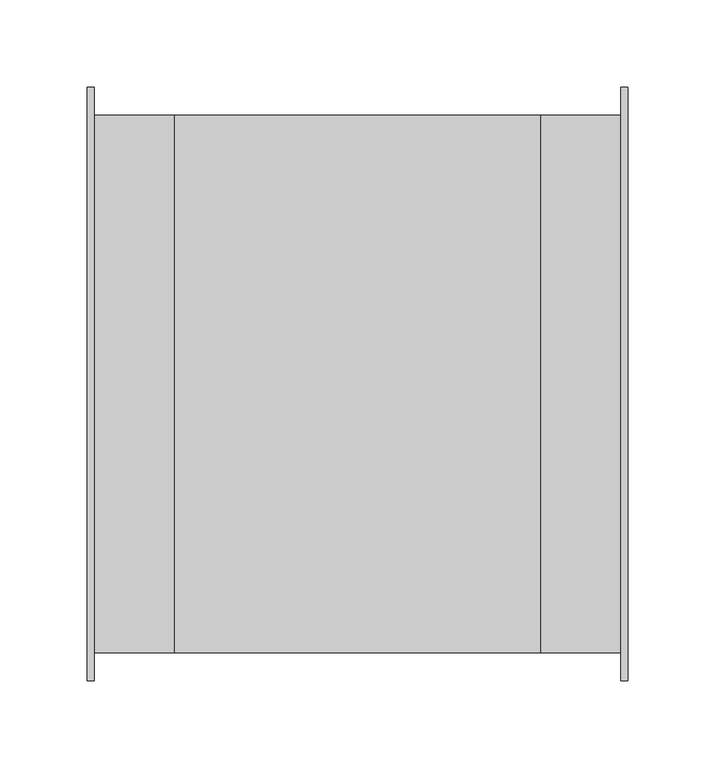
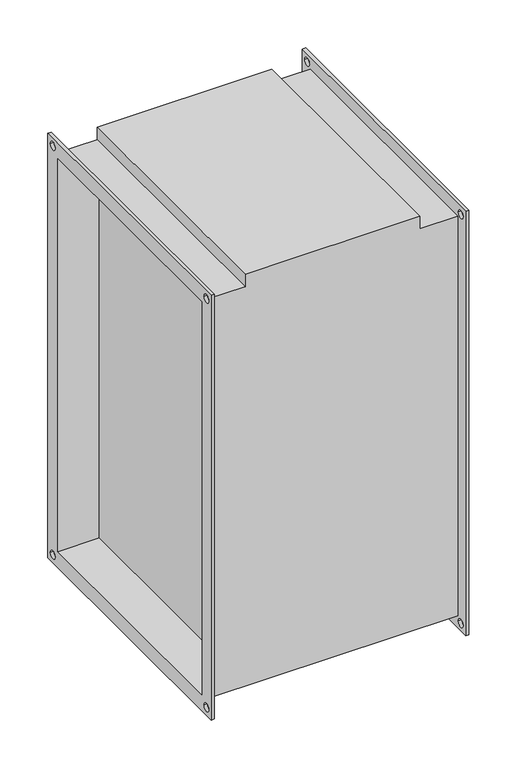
"""IFC4 building model written with IfcOpenShell, lengths in millimetres: proxy geometry, СВ_ВоздухонагревательЭлектрический_КанальныйПрямоугольный_200-1000_SPH-E : SPH-E-500x300/7,5."""

import ifcopenshell
import ifcopenshell.guid

model = None  # the IFC model being written
_history = None  # IfcOwnerHistory: only IFC2X3 demands one
_inside = {}  # id of a spatial element -> (the spatial element, [elements in it])
_under = {}  # id of a project, library or spatial element -> (it, [spatial elements below it])
_declared = {}  # id of a project -> (the project, [libraries it declares])
_typed = {}  # id of a type object -> (the type object, [elements of that type])
_made_of = {}  # id of a material, layer set ... -> (it, [elements and type objects made of it])


def new_model(schema):
    """Start an empty IFC model of exactly this schema.

    Asked for "IFC4X3", IfcOpenShell would pick the latest addendum, in which some entities
    have other attributes; the version numbers below select the first issue.
    IFC2X3 requires an IfcOwnerHistory on every rooted entity: one is made here for all.
    """
    global model, _history
    if schema == "IFC4X3":
        model = ifcopenshell.file(schema_version=(4, 3, 0, 0))
    else:
        model = ifcopenshell.file(schema=schema)
    _inside.clear()
    _under.clear()
    _declared.clear()
    _typed.clear()
    _made_of.clear()
    _history = None
    if model.schema == "IFC2X3":
        org = make("IfcOrganization", Name="unknown")
        user = make(
            "IfcPersonAndOrganization",
            ThePerson=make("IfcPerson", FamilyName="unknown"),
            TheOrganization=org,
        )
        app = make(
            "IfcApplication",
            ApplicationDeveloper=org,
            Version="unknown",
            ApplicationFullName="unknown",
            ApplicationIdentifier="unknown",
        )
        _history = make(
            "IfcOwnerHistory",
            OwningUser=user,
            OwningApplication=app,
            ChangeAction="ADDED",
            CreationDate=0,
        )
    return model


def make(cls, **values):
    """One entity of the class cls with the attributes given. An attribute that is None is left unset."""
    return model.create_entity(
        cls, **{name: value for name, value in values.items() if value is not None}
    )


def rooted(cls, **values):
    """An entity with a GlobalId (a new one), such as an element, a storey or a relation."""
    return make(cls, GlobalId=ifcopenshell.guid.new(), OwnerHistory=_history, **values)


def si_unit(unit_type, name, prefix=None):
    """IfcSIUnit, for example si_unit("LENGTHUNIT", "METRE", prefix="MILLI")."""
    return make("IfcSIUnit", UnitType=unit_type, Prefix=prefix, Name=name)


def assignment(units):
    """IfcUnitAssignment: the units of a project."""
    return None if units is None else make("IfcUnitAssignment", Units=units)


def point(xyz):
    """IfcCartesianPoint."""
    return None if xyz is None else make("IfcCartesianPoint", Coordinates=xyz)


def direction(xyz):
    """IfcDirection."""
    return None if xyz is None else make("IfcDirection", DirectionRatios=xyz)


def frame(location, z_axis=None, x_axis=None):
    """IfcAxis2Placement3D, a coordinate frame: its origin and axes. An axis left out is left unset."""
    return make(
        "IfcAxis2Placement3D",
        Location=point(location),
        Axis=direction(z_axis),
        RefDirection=direction(x_axis),
    )


def origin():
    """The frame at (0, 0, 0) with its axes left unset."""
    return frame((0.0, 0.0, 0.0))


def place(relative_to, where):
    """IfcLocalPlacement: puts the frame where relative to a parent placement (None: the world)."""
    return make(
        "IfcLocalPlacement", PlacementRelTo=relative_to, RelativePlacement=where
    )


def context(
    kind, dimensions, precision=None, world=None, true_north=None, identifier=None
):
    """IfcGeometricRepresentationContext, for example the 3D "Model" context."""
    return make(
        "IfcGeometricRepresentationContext",
        ContextIdentifier=identifier,
        ContextType=kind,
        CoordinateSpaceDimension=dimensions,
        Precision=precision,
        WorldCoordinateSystem=world,
        TrueNorth=true_north,
    )


def project(units=None, contexts=None):
    """IfcProject with its units and contexts."""
    return rooted(
        "IfcProject",
        Name="project",
        RepresentationContexts=contexts,
        UnitsInContext=assignment(units),
    )


def spatial(cls, under=None, at=None, **own):
    """A site, building, storey or space (cls), placed at a placement, below another one or the project."""
    s = rooted(cls, ObjectPlacement=at, **own)
    if under is not None:
        _under.setdefault(under.id(), (under, []))[1].append(s)
    return s


def polyline(points):
    """IfcPolyline through the points."""
    return make("IfcPolyline", Points=[point(p) for p in points])


def circle_curve(where, radius):
    """IfcCircle in the frame where."""
    return make("IfcCircle", Position=where, Radius=radius)


def shape(context_of_items, identifier, shape_type, items):
    """IfcShapeRepresentation: the items that make up one representation, for example the "Body"."""
    return make(
        "IfcShapeRepresentation",
        ContextOfItems=context_of_items,
        RepresentationIdentifier=identifier,
        RepresentationType=shape_type,
        Items=items,
    )


def source(mapping_origin, context_of_items, identifier, shape_type, items):
    """IfcRepresentationMap: a shape defined once, which mapped items show again and again."""
    return make(
        "IfcRepresentationMap",
        MappingOrigin=mapping_origin,
        MappedRepresentation=shape(context_of_items, identifier, shape_type, items),
    )


def transform(
    local_origin,
    x_axis=None,
    y_axis=None,
    z_axis=None,
    scale=None,
    scale2=None,
    scale3=None,
    uniform=True,
):
    """IfcCartesianTransformationOperator3D, or its non-uniform kind. x_axis, y_axis, z_axis: its Axis1, 2, 3."""
    if uniform:
        return make(
            "IfcCartesianTransformationOperator3D",
            Axis1=direction(x_axis),
            Axis2=direction(y_axis),
            LocalOrigin=point(local_origin),
            Scale=scale,
            Axis3=direction(z_axis),
        )
    return make(
        "IfcCartesianTransformationOperator3DnonUniform",
        Axis1=direction(x_axis),
        Axis2=direction(y_axis),
        LocalOrigin=point(local_origin),
        Scale=scale,
        Axis3=direction(z_axis),
        Scale2=scale2,
        Scale3=scale3,
    )


def mapped(mapping_source, mapping_target):
    """IfcMappedItem: shows the shape of a source again, moved by a transform."""
    return make(
        "IfcMappedItem", MappingSource=mapping_source, MappingTarget=mapping_target
    )


def made_of(thing, what):
    """Note that an element or type object is made of a material, layer set ...; save() writes the relation."""
    if what is not None:
        _made_of.setdefault(what.id(), (what, []))[1].append(thing)
    return thing


def element(
    cls,
    number,
    at=None,
    inside=None,
    cuts=None,
    type_object=None,
    material=None,
    context=None,
    identifier="Body",
    shape_type=None,
    held_by="IfcProductDefinitionShape",
    body=None,
    shapes=None,
    **own,
):
    """One element of the class cls, such as IfcWall. Its Tag is "e" and its number.

    at: its placement. inside: the storey or other place that contains it. cuts: it is an
    opening in that element (IfcRelVoidsElement). A single representation is given by context,
    identifier, shape_type and body (its items); several are given by shapes. held_by: the class
    of the entity that holds the representations. save() writes the other relations.
    """
    e = rooted(cls, Tag="e%d" % number, ObjectPlacement=at, **own)
    if body is not None:
        shapes = [shape(context, identifier, shape_type, body)]
    if shapes is not None:
        e.Representation = make(held_by, Representations=shapes)
    if inside is not None:
        _inside.setdefault(inside.id(), (inside, []))[1].append(e)
    if cuts is not None:
        rooted(
            "IfcRelVoidsElement", RelatingBuildingElement=cuts, RelatedOpeningElement=e
        )
    if type_object is not None:
        _typed.setdefault(type_object.id(), (type_object, []))[1].append(e)
    return made_of(e, material)


def aggregate(whole, parts):
    """IfcRelAggregates: a whole, such as a stair, and the parts it consists of."""
    return rooted("IfcRelAggregates", RelatingObject=whole, RelatedObjects=parts)


def save(model, path):
    """Write the relations noted so far, then the file.

    IfcRelAggregates (storeys below a building ...), IfcRelContainedInSpatialStructure (elements
    in a storey), IfcRelDefinesByType, IfcRelAssociatesMaterial and IfcRelDeclares: one each for
    every whole, place, type object, material and project.
    """
    for whole, parts in _under.values():
        aggregate(whole, parts)
    for where, things in _inside.values():
        rooted(
            "IfcRelContainedInSpatialStructure",
            RelatedElements=things,
            RelatingStructure=where,
        )
    for kind, things in _typed.values():
        rooted("IfcRelDefinesByType", RelatedObjects=things, RelatingType=kind)
    for what, things in _made_of.values():
        rooted("IfcRelAssociatesMaterial", RelatedObjects=things, RelatingMaterial=what)
    for by, libraries in _declared.values():
        rooted("IfcRelDeclares", RelatingContext=by, RelatedDefinitions=libraries)
    model.write(path)


def plane_surface(at):
    """IfcPlane: the flat surface through the origin of the frame at, square to its z axis."""
    return make("IfcPlane", Position=at)


def revolved_surface(curve, axis_point, axis_direction):
    """IfcSurfaceOfRevolution: the curve turned about the line through axis_point along axis_direction."""
    return make(
        "IfcSurfaceOfRevolution",
        SweptCurve=make("IfcArbitraryOpenProfileDef", ProfileType="CURVE", Curve=curve),
        AxisPosition=make("IfcAxis1Placement", Location=point(axis_point), Axis=direction(axis_direction)),
    )


def advanced_brep(points, edges, surfaces, faces):
    """IfcAdvancedBrep: a solid bounded by faces that lie on surfaces and meet in shared edges.

    An edge is (start, end): straight between two places in points (the first is 0);
    or (start, end, curve); or (start, end, curve, False) where it runs against its curve.
    A face is (place in surfaces, loops), or (place, loops, False) where it looks against
    its surface's normal. A loop lists edges by number (the first is 1), with a minus sign
    where the edge is run from its end to its start. The first loop is the outer one.
    """
    corners = [point(p) for p in points]
    vertices = [make("IfcVertexPoint", VertexGeometry=c) for c in corners]
    made = []
    for start, end, *more in edges:
        made.append(
            make(
                "IfcEdgeCurve",
                EdgeStart=vertices[start],
                EdgeEnd=vertices[end],
                EdgeGeometry=more[0] if more else make("IfcPolyline", Points=[corners[start], corners[end]]),
                SameSense=more[1] if len(more) > 1 else True,
            )
        )
    hull = []
    for where, loops, *sense in faces:
        bounds = []
        for j, loop in enumerate(loops):
            ring = [make("IfcOrientedEdge", EdgeElement=made[abs(k) - 1], Orientation=k > 0) for k in loop]
            bounds.append(
                make(
                    "IfcFaceOuterBound" if j == 0 else "IfcFaceBound",
                    Bound=make("IfcEdgeLoop", EdgeList=ring),
                    Orientation=True,
                )
            )
        hull.append(make("IfcAdvancedFace", Bounds=bounds, FaceSurface=surfaces[where], SameSense=sense[0] if sense else True))
    return make("IfcAdvancedBrep", Outer=make("IfcClosedShell", CfsFaces=hull))


def mechanical_equipment_28f21b0b(model_context):
    return source(origin(), model_context, "Body", "AdvancedBrep", [
        advanced_brep(
        [(-105.0, -154.0, 254.0), (-151.0, -154.0, 254.0), (-151.0, -154.0, -254.0), (151.0, -154.0, -254.0), (151.0, -154.0, 254.0), (105.0, -154.0, 254.0), (105.0, -154.0, 270.0), (-105.0, -154.0, 270.0), (-151.0, 154.0, -254.0), (151.0, 154.0, -254.0), (-151.0, 154.0, 254.0), (-105.0, 154.0, 254.0), (-105.0, 154.0, 270.0), (105.0, 154.0, 270.0), (105.0, 154.0, 254.0), (151.0, 154.0, 254.0), (105.0, 150.0, -250.0), (105.0, 150.0, 250.0), (105.0, -150.0, 250.0), (105.0, -150.0, -250.0), (-105.0, -150.0, 250.0), (-105.0, 150.0, 250.0), (-105.0, 150.0, -250.0), (-105.0, -150.0, -250.0), (-155.0, -170.0, 270.0), (-155.0, 170.0, 270.0), (-155.0, 170.0, -270.0), (-155.0, -170.0, -270.0), (-155.0, -150.0, 250.0), (-155.0, -150.0, -250.0), (-155.0, 150.0, -250.0), (-155.0, 150.0, 250.0), (-155.0, 155.0, 260.0), (-155.0, 165.0, 260.0), (-155.0, -165.0, 260.0), (-155.0, -155.0, 260.0), (-155.0, -165.0, -260.0), (-155.0, -155.0, -260.0), (-155.0, 155.0, -260.0), (-155.0, 165.0, -260.0), (-151.0, -170.0, 270.0), (-151.0, -170.0, -270.0), (-151.0, 170.0, -270.0), (-151.0, 170.0, 270.0), (-151.0, 165.0, 260.0), (-151.0, 155.0, 260.0), (-151.0, -155.0, 260.0), (-151.0, -165.0, 260.0), (-151.0, -155.0, -260.0), (-151.0, -165.0, -260.0), (-151.0, 165.0, -260.0), (-151.0, 155.0, -260.0), (151.0, 170.0, 270.0), (151.0, 170.0, -270.0), (151.0, -170.0, -270.0), (151.0, -170.0, 270.0), (151.0, 155.0, 260.0), (151.0, 165.0, 260.0), (151.0, -165.0, 260.0), (151.0, -155.0, 260.0), (151.0, -165.0, -260.0), (151.0, -155.0, -260.0), (151.0, 155.0, -260.0), (151.0, 165.0, -260.0), (155.0, 170.0, 270.0), (155.0, -170.0, 270.0), (155.0, -170.0, -270.0), (155.0, 170.0, -270.0), (155.0, 150.0, 250.0), (155.0, 150.0, -250.0), (155.0, -150.0, -250.0), (155.0, -150.0, 250.0), (155.0, 165.0, 260.0), (155.0, 155.0, 260.0), (155.0, -155.0, 260.0), (155.0, -165.0, 260.0), (155.0, -155.0, -260.0), (155.0, -165.0, -260.0), (155.0, 165.0, -260.0), (155.0, 155.0, -260.0)],
        [
            (0, 1),
            (1, 2),
            (2, 3),
            (3, 4),
            (4, 5),
            (5, 6),
            (6, 7),
            (7, 0),
            (2, 8),
            (8, 9),
            (9, 3),
            (10, 11),
            (11, 12),
            (12, 13),
            (13, 14),
            (14, 15),
            (15, 9),
            (8, 10),
            (0, 11),
            (10, 1),
            (13, 6),
            (5, 14),
            (16, 17),
            (17, 18),
            (18, 19),
            (19, 16),
            (7, 12),
            (20, 21),
            (21, 22),
            (22, 23),
            (23, 20),
            (4, 15),
            (24, 25),
            (25, 26),
            (26, 27),
            (27, 24),
            (28, 29),
            (29, 30),
            (30, 31),
            (31, 28),
            (32, 33, circle_curve(frame((-155.0, 160.0, 260.0), z_axis=(1.0, 0.0, 0.0), x_axis=(0.0, 1.0, 0.0)), 5.0)),
            (33, 32, circle_curve(frame((-155.0, 160.0, 260.0), z_axis=(1.0, 0.0, 0.0), x_axis=(0.0, 1.0, 0.0)), 5.0)),
            (34, 35, circle_curve(frame((-155.0, -160.0, 260.0), z_axis=(1.0, 0.0, 0.0), x_axis=(0.0, 1.0, 0.0)), 5.0)),
            (35, 34, circle_curve(frame((-155.0, -160.0, 260.0), z_axis=(1.0, 0.0, 0.0), x_axis=(0.0, 1.0, 0.0)), 5.0)),
            (36, 37, circle_curve(frame((-155.0, -160.0, -260.0), z_axis=(1.0, 0.0, 0.0), x_axis=(0.0, 1.0, 0.0)), 5.0)),
            (37, 36, circle_curve(frame((-155.0, -160.0, -260.0), z_axis=(1.0, 0.0, 0.0), x_axis=(0.0, 1.0, 0.0)), 5.0)),
            (38, 39, circle_curve(frame((-155.0, 160.0, -260.0), z_axis=(1.0, 0.0, 0.0), x_axis=(0.0, 1.0, 0.0)), 5.0)),
            (39, 38, circle_curve(frame((-155.0, 160.0, -260.0), z_axis=(1.0, 0.0, 0.0), x_axis=(0.0, 1.0, 0.0)), 5.0)),
            (40, 41),
            (41, 42),
            (42, 43),
            (43, 40),
            (44, 45, circle_curve(frame((-151.0, 160.0, 260.0), z_axis=(-1.0, 0.0, 0.0), x_axis=(0.0, 1.0, 0.0)), 5.0)),
            (45, 44, circle_curve(frame((-151.0, 160.0, 260.0), z_axis=(-1.0, 0.0, 0.0), x_axis=(0.0, 1.0, 0.0)), 5.0)),
            (46, 47, circle_curve(frame((-151.0, -160.0, 260.0), z_axis=(-1.0, 0.0, 0.0), x_axis=(0.0, 1.0, 0.0)), 5.0)),
            (47, 46, circle_curve(frame((-151.0, -160.0, 260.0), z_axis=(-1.0, 0.0, 0.0), x_axis=(0.0, 1.0, 0.0)), 5.0)),
            (48, 49, circle_curve(frame((-151.0, -160.0, -260.0), z_axis=(-1.0, 0.0, 0.0), x_axis=(0.0, 1.0, 0.0)), 5.0)),
            (49, 48, circle_curve(frame((-151.0, -160.0, -260.0), z_axis=(-1.0, 0.0, 0.0), x_axis=(0.0, 1.0, 0.0)), 5.0)),
            (50, 51, circle_curve(frame((-151.0, 160.0, -260.0), z_axis=(-1.0, 0.0, 0.0), x_axis=(0.0, 1.0, 0.0)), 5.0)),
            (51, 50, circle_curve(frame((-151.0, 160.0, -260.0), z_axis=(-1.0, 0.0, 0.0), x_axis=(0.0, 1.0, 0.0)), 5.0)),
            (27, 41),
            (40, 24),
            (26, 42),
            (25, 43),
            (52, 53),
            (53, 54),
            (54, 55),
            (55, 52),
            (56, 57, circle_curve(frame((151.0, 160.0, 260.0), z_axis=(1.0, 0.0, 0.0), x_axis=(0.0, 1.0, 0.0)), 5.0)),
            (57, 56, circle_curve(frame((151.0, 160.0, 260.0), z_axis=(1.0, 0.0, 0.0), x_axis=(0.0, 1.0, 0.0)), 5.0)),
            (58, 59, circle_curve(frame((151.0, -160.0, 260.0), z_axis=(1.0, 0.0, 0.0), x_axis=(0.0, 1.0, 0.0)), 5.0)),
            (59, 58, circle_curve(frame((151.0, -160.0, 260.0), z_axis=(1.0, 0.0, 0.0), x_axis=(0.0, 1.0, 0.0)), 5.0)),
            (60, 61, circle_curve(frame((151.0, -160.0, -260.0), z_axis=(1.0, 0.0, 0.0), x_axis=(0.0, 1.0, 0.0)), 5.0)),
            (61, 60, circle_curve(frame((151.0, -160.0, -260.0), z_axis=(1.0, 0.0, 0.0), x_axis=(0.0, 1.0, 0.0)), 5.0)),
            (62, 63, circle_curve(frame((151.0, 160.0, -260.0), z_axis=(1.0, 0.0, 0.0), x_axis=(0.0, 1.0, 0.0)), 5.0)),
            (63, 62, circle_curve(frame((151.0, 160.0, -260.0), z_axis=(1.0, 0.0, 0.0), x_axis=(0.0, 1.0, 0.0)), 5.0)),
            (64, 65),
            (65, 66),
            (66, 67),
            (67, 64),
            (68, 69),
            (69, 70),
            (70, 71),
            (71, 68),
            (72, 73, circle_curve(frame((155.0, 160.0, 260.0), z_axis=(-1.0, 0.0, 0.0), x_axis=(0.0, 1.0, 0.0)), 5.0)),
            (73, 72, circle_curve(frame((155.0, 160.0, 260.0), z_axis=(-1.0, 0.0, 0.0), x_axis=(0.0, 1.0, 0.0)), 5.0)),
            (74, 75, circle_curve(frame((155.0, -160.0, 260.0), z_axis=(-1.0, 0.0, 0.0), x_axis=(0.0, 1.0, 0.0)), 5.0)),
            (75, 74, circle_curve(frame((155.0, -160.0, 260.0), z_axis=(-1.0, 0.0, 0.0), x_axis=(0.0, 1.0, 0.0)), 5.0)),
            (76, 77, circle_curve(frame((155.0, -160.0, -260.0), z_axis=(-1.0, 0.0, 0.0), x_axis=(0.0, 1.0, 0.0)), 5.0)),
            (77, 76, circle_curve(frame((155.0, -160.0, -260.0), z_axis=(-1.0, 0.0, 0.0), x_axis=(0.0, 1.0, 0.0)), 5.0)),
            (78, 79, circle_curve(frame((155.0, 160.0, -260.0), z_axis=(-1.0, 0.0, 0.0), x_axis=(0.0, 1.0, 0.0)), 5.0)),
            (79, 78, circle_curve(frame((155.0, 160.0, -260.0), z_axis=(-1.0, 0.0, 0.0), x_axis=(0.0, 1.0, 0.0)), 5.0)),
            (55, 65),
            (64, 52),
            (54, 66),
            (53, 67),
            (31, 21),
            (20, 28),
            (30, 22),
            (29, 23),
            (68, 17),
            (16, 69),
            (19, 70),
            (18, 71),
            (32, 45),
            (44, 33),
            (56, 73),
            (72, 57),
            (34, 47),
            (46, 35),
            (58, 75),
            (74, 59),
            (36, 49),
            (48, 37),
            (60, 77),
            (76, 61),
            (38, 51),
            (50, 39),
            (62, 79),
            (78, 63),
        ],
        [
            plane_surface(frame((-105.0, -154.0, 254.0), z_axis=(0.0, -1.0, 0.0), x_axis=(-1.0, 0.0, 0.0))),
            plane_surface(frame((-105.0, -154.0, -254.0), z_axis=(0.0, 0.0, -1.0), x_axis=(-1.0, 0.0, 0.0))),
            plane_surface(frame((-105.0, 154.0, -254.0), z_axis=(0.0, 1.0, 0.0), x_axis=(-1.0, 0.0, 0.0))),
            plane_surface(frame((-105.0, 154.0, 254.0), z_axis=(0.0, 0.0, 1.0), x_axis=(-1.0, 0.0, 0.0))),
            plane_surface(frame((105.0, -154.0, 270.0), z_axis=(1.0, 0.0, 0.0), x_axis=(0.0, 0.0, -1.0))),
            plane_surface(frame((-105.0, -154.0, 270.0), z_axis=(-1.0, 0.0, 0.0), x_axis=(0.0, 0.0, 1.0))),
            plane_surface(frame((105.0, 154.0, 270.0), z_axis=(0.0, 0.0, 1.0), x_axis=(-1.0, 0.0, 0.0))),
            plane_surface(frame((151.0, 154.0, 254.0), z_axis=(0.0, 0.0, 1.0), x_axis=(-1.0, 0.0, 0.0))),
            plane_surface(frame((-155.0, -170.0, 270.0), z_axis=(-1.0, 0.0, 0.0), x_axis=(0.0, 0.0, 1.0))),
            plane_surface(frame((-151.0, -170.0, 270.0), z_axis=(1.0, 0.0, 0.0), x_axis=(0.0, 0.0, -1.0))),
            plane_surface(frame((-151.0, -170.0, 270.0), z_axis=(0.0, -1.0, 0.0), x_axis=(-1.0, 0.0, 0.0))),
            plane_surface(frame((-151.0, -170.0, -270.0), z_axis=(0.0, 0.0, -1.0), x_axis=(-1.0, 0.0, 0.0))),
            plane_surface(frame((-151.0, 170.0, -270.0), z_axis=(0.0, 1.0, 0.0), x_axis=(-1.0, 0.0, 0.0))),
            plane_surface(frame((-151.0, 170.0, 270.0), z_axis=(0.0, 0.0, 1.0), x_axis=(-1.0, 0.0, 0.0))),
            plane_surface(frame((151.0, 150.0, -250.0), z_axis=(-1.0, 0.0, 0.0), x_axis=(0.0, 0.0, 1.0))),
            plane_surface(frame((155.0, 150.0, -250.0), z_axis=(1.0, 0.0, 0.0), x_axis=(0.0, 0.0, -1.0))),
            plane_surface(frame((155.0, 170.0, 270.0), z_axis=(0.0, 0.0, 1.0), x_axis=(-1.0, 0.0, 0.0))),
            plane_surface(frame((155.0, -170.0, 270.0), z_axis=(0.0, -1.0, 0.0), x_axis=(-1.0, 0.0, 0.0))),
            plane_surface(frame((155.0, -170.0, -270.0), z_axis=(0.0, 0.0, -1.0), x_axis=(-1.0, 0.0, 0.0))),
            plane_surface(frame((155.0, 170.0, -270.0), z_axis=(0.0, 1.0, 0.0), x_axis=(-1.0, 0.0, 0.0))),
            plane_surface(frame((-151.0, -150.0, 250.0), z_axis=(0.0, 0.0, -1.0), x_axis=(-1.0, 0.0, 0.0))),
            plane_surface(frame((-151.0, 150.0, 250.0), z_axis=(0.0, -1.0, 0.0), x_axis=(-1.0, 0.0, 0.0))),
            plane_surface(frame((-151.0, 150.0, -250.0), z_axis=(0.0, 0.0, 1.0), x_axis=(-1.0, 0.0, 0.0))),
            plane_surface(frame((-151.0, -150.0, -250.0), z_axis=(0.0, 1.0, 0.0), x_axis=(-1.0, 0.0, 0.0))),
            plane_surface(frame((155.0, 150.0, 250.0), z_axis=(0.0, -1.0, 0.0), x_axis=(-1.0, 0.0, 0.0))),
            plane_surface(frame((155.0, 150.0, -250.0), z_axis=(0.0, 0.0, 1.0), x_axis=(-1.0, 0.0, 0.0))),
            plane_surface(frame((155.0, -150.0, -250.0), z_axis=(0.0, 1.0, 0.0), x_axis=(-1.0, 0.0, 0.0))),
            plane_surface(frame((155.0, -150.0, 250.0), z_axis=(0.0, 0.0, -1.0), x_axis=(-1.0, 0.0, 0.0))),
            revolved_surface(polyline([(-151.0, 165.0, 260.0), (-155.0, 165.0, 260.0)]), (-155.0, 160.0, 260.0), (1.0, 0.0, 0.0)),
            revolved_surface(polyline([(155.0, 165.0, 260.0), (151.0, 165.0, 260.0)]), (-155.0, 160.0, 260.0), (1.0, 0.0, 0.0)),
            revolved_surface(polyline([(-151.0, -155.0, 260.0), (-155.0, -155.0, 260.0)]), (0.0, -160.0, 260.0), (1.0, 0.0, 0.0)),
            revolved_surface(polyline([(155.0, -155.0, 260.0), (151.0, -155.0, 260.0)]), (0.0, -160.0, 260.0), (1.0, 0.0, 0.0)),
            revolved_surface(polyline([(-151.0, -155.0, -260.0), (-155.0, -155.0, -260.0)]), (0.0, -160.0, -260.0), (1.0, 0.0, 0.0)),
            revolved_surface(polyline([(155.0, -155.0, -260.0), (151.0, -155.0, -260.0)]), (0.0, -160.0, -260.0), (1.0, 0.0, 0.0)),
            revolved_surface(polyline([(-151.0, 165.0, -260.0), (-155.0, 165.0, -260.0)]), (0.0, 160.0, -260.0), (1.0, 0.0, 0.0)),
            revolved_surface(polyline([(155.0, 165.0, -260.0), (151.0, 165.0, -260.0)]), (0.0, 160.0, -260.0), (1.0, 0.0, 0.0)),
        ],
        [
            (0, [[1, 2, 3, 4, 5, 6, 7, 8]]),
            (1, [[-3, 9, 10, 11]]),
            (2, [[12, 13, 14, 15, 16, 17, -10, 18]]),
            (3, [[-1, 19, -12, 20]]),
            (4, [[21, -6, 22, -15]]),
            (4, [[23, 24, 25, 26]]),
            (5, [[27, -13, -19, -8]]),
            (5, [[28, 29, 30, 31]]),
            (6, [[-21, -14, -27, -7]]),
            (7, [[-5, 32, -16, -22]]),
            (8, [[33, 34, 35, 36], [37, 38, 39, 40], [41, 42], [43, 44], [45, 46], [47, 48]]),
            (9, [[49, 50, 51, 52], [-2, -20, -18, -9], [53, 54], [55, 56], [57, 58], [59, 60]]),
            (10, [[-36, 61, -49, 62]]),
            (11, [[-35, 63, -50, -61]]),
            (12, [[-34, 64, -51, -63]]),
            (13, [[-33, -62, -52, -64]]),
            (14, [[65, 66, 67, 68], [-4, -11, -17, -32], [69, 70], [71, 72], [73, 74], [75, 76]]),
            (15, [[77, 78, 79, 80], [81, 82, 83, 84], [85, 86], [87, 88], [89, 90], [91, 92]]),
            (16, [[-68, 93, -77, 94]]),
            (17, [[-67, 95, -78, -93]]),
            (18, [[-66, 96, -79, -95]]),
            (19, [[-65, -94, -80, -96]]),
            (20, [[-40, 97, -28, 98]]),
            (21, [[-39, 99, -29, -97]]),
            (22, [[-38, 100, -30, -99]]),
            (23, [[-37, -98, -31, -100]]),
            (24, [[-81, 101, -23, 102]]),
            (25, [[-82, -102, -26, 103]]),
            (26, [[-83, -103, -25, 104]]),
            (27, [[-101, -84, -104, -24]]),
            (28, [[105, -53, 106, -41]]),
            (29, [[107, -85, 108, -69]]),
            (28, [[-105, -42, -106, -54]]),
            (29, [[-107, -70, -108, -86]]),
            (30, [[109, -55, 110, -43]]),
            (31, [[111, -87, 112, -71]]),
            (30, [[-109, -44, -110, -56]]),
            (31, [[-111, -72, -112, -88]]),
            (32, [[113, -57, 114, -45]]),
            (33, [[115, -89, 116, -73]]),
            (32, [[-113, -46, -114, -58]]),
            (33, [[-115, -74, -116, -90]]),
            (34, [[117, -59, 118, -47]]),
            (35, [[119, -91, 120, -75]]),
            (34, [[-117, -48, -118, -60]]),
            (35, [[-119, -76, -120, -92]]),
        ],
    ),
    ])


if __name__ == "__main__":
    model = new_model("IFC4")
    model_context = context("Model", 3, world=origin())
    ifc_project = project(units=[si_unit("LENGTHUNIT", "METRE", prefix="MILLI")], contexts=[model_context])
    site = spatial("IfcSite", under=ifc_project)
    building = spatial("IfcBuilding", under=site)
    placement = place(None, origin())
    mechanical_equipment_shape = mechanical_equipment_28f21b0b(model_context)
    element("IfcBuildingElementProxy", 1, Name="СВ_ВоздухонагревательЭлектрический_КанальныйПрямоугольный_200-1000_SPH-E : SPH-E-500x300/7,5", ObjectType="СВ_ВоздухонагревательЭлектрический_КанальныйПрямоугольный_200-1000_SPH-E : SPH-E-500x300/7,5", at=placement, inside=building, context=model_context, shape_type="MappedRepresentation", body=[
        mapped(mechanical_equipment_shape, transform((0.0, 0.0, 0.0), x_axis=(1.0, 0.0, 0.0), y_axis=(0.0, 1.0, 0.0), z_axis=(0.0, 0.0, 1.0))),
    ])
    save(model, "model.ifc")
